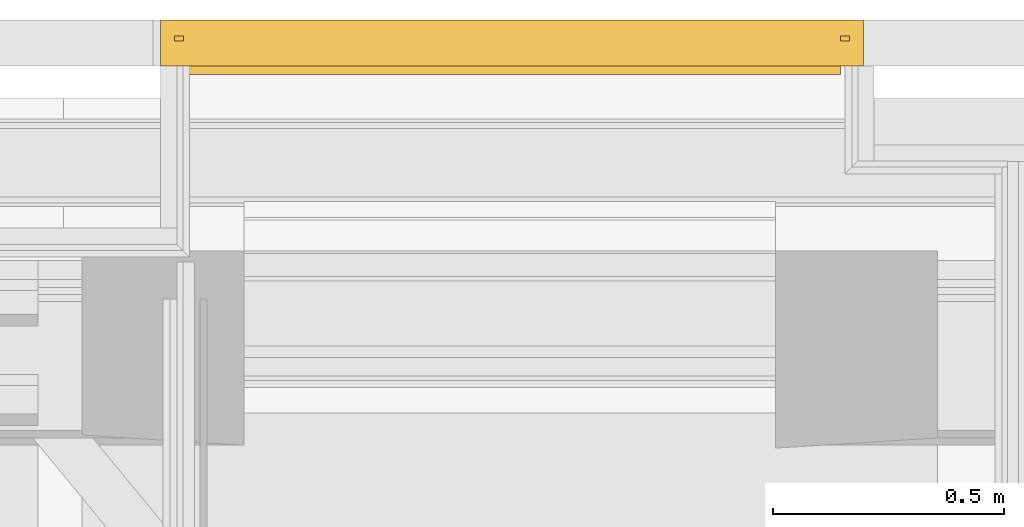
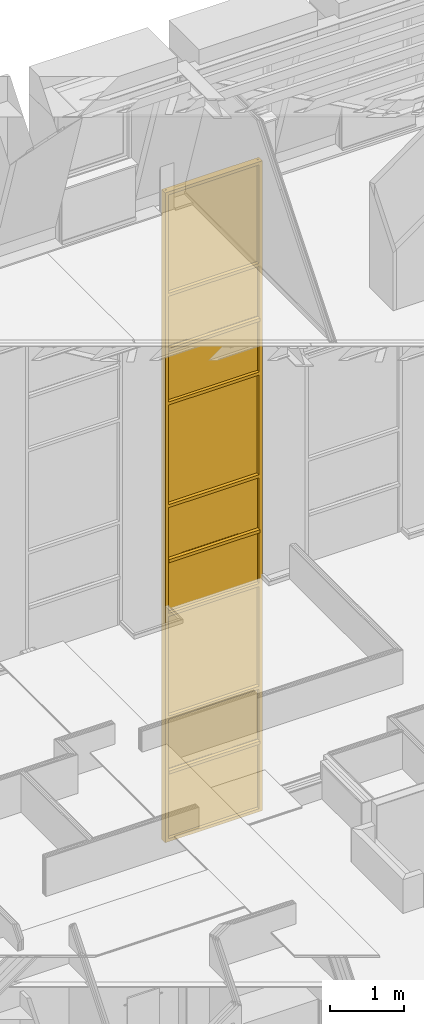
# One storey, part 129 of 183: 1 curtain wall.
"""IFC2X3 building model written with IfcOpenShell, lengths in metres."""

from ifc_helpers import new_model, entity, si_unit, converted_unit, derived_unit, money_unit, direction, frame, origin_with_axes, place, context, subcontext, project, spatial, faceted_brep, material, type_object, element, save


model = new_model("IFC2X3")

# Units and contexts
model_context = context("Model", 3, precision=1e-05, world=origin_with_axes(), true_north=direction((0.0, 1.0)))
body_context = subcontext(model_context, "Body", "Model", "MODEL_VIEW", scale=1.0)
ifc_project = project(units=[si_unit("LENGTHUNIT", "METRE"), si_unit("AREAUNIT", "SQUARE_METRE"), si_unit("VOLUMEUNIT", "CUBIC_METRE"), si_unit("ABSORBEDDOSEUNIT", "GRAY"), si_unit("AMOUNTOFSUBSTANCEUNIT", "MOLE"), si_unit("DOSEEQUIVALENTUNIT", "SIEVERT"), si_unit("ELECTRICCAPACITANCEUNIT", "FARAD"), si_unit("ELECTRICCHARGEUNIT", "COULOMB"), si_unit("ELECTRICCONDUCTANCEUNIT", "SIEMENS"), si_unit("ELECTRICCURRENTUNIT", "AMPERE"), si_unit("ELECTRICRESISTANCEUNIT", "OHM"), si_unit("ELECTRICVOLTAGEUNIT", "VOLT"), si_unit("ENERGYUNIT", "JOULE"), si_unit("FORCEUNIT", "NEWTON"), si_unit("FREQUENCYUNIT", "HERTZ"), si_unit("ILLUMINANCEUNIT", "LUX"), si_unit("INDUCTANCEUNIT", "HENRY"), si_unit("LUMINOUSFLUXUNIT", "LUMEN"), si_unit("LUMINOUSINTENSITYUNIT", "CANDELA"), si_unit("MAGNETICFLUXDENSITYUNIT", "TESLA"), si_unit("MAGNETICFLUXUNIT", "WEBER"), si_unit("MASSUNIT", "GRAM"), converted_unit("PLANEANGLEUNIT", "degree", entity("IfcReal", 0.0174532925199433), si_unit("PLANEANGLEUNIT", "RADIAN"), dimensions=[0, 0, 0, 0, 0, 0, 0]), si_unit("POWERUNIT", "WATT"), si_unit("PRESSUREUNIT", "PASCAL"), si_unit("RADIOACTIVITYUNIT", "BECQUEREL"), si_unit("SOLIDANGLEUNIT", "STERADIAN"), si_unit("THERMODYNAMICTEMPERATUREUNIT", "KELVIN"), si_unit("TIMEUNIT", "SECOND"), derived_unit("ACCELERATIONUNIT", [(si_unit("LENGTHUNIT", "METRE"), 1), (si_unit("TIMEUNIT", "SECOND"), -2)]), derived_unit("ANGULARVELOCITYUNIT", [(converted_unit("PLANEANGLEUNIT", "degree", entity("IfcReal", 0.0174532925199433), si_unit("PLANEANGLEUNIT", "RADIAN"), dimensions=[0, 0, 0, 0, 0, 0, 0]), 1), (si_unit("TIMEUNIT", "SECOND"), -1)]), derived_unit("CURVATUREUNIT", [(converted_unit("PLANEANGLEUNIT", "degree", entity("IfcReal", 0.0174532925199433), si_unit("PLANEANGLEUNIT", "RADIAN"), dimensions=[0, 0, 0, 0, 0, 0, 0]), 1), (si_unit("LENGTHUNIT", "METRE"), -1)]), derived_unit("DYNAMICVISCOSITYUNIT", [(si_unit("PRESSUREUNIT", "PASCAL"), 1), (si_unit("TIMEUNIT", "SECOND"), 1)]), derived_unit("HEATFLUXDENSITYUNIT", [(si_unit("POWERUNIT", "WATT"), 1), (si_unit("LENGTHUNIT", "METRE"), -2)]), derived_unit("HEATINGVALUEUNIT", [(si_unit("ENERGYUNIT", "JOULE"), 1), (si_unit("MASSUNIT", "GRAM"), -1)]), derived_unit("INTEGERCOUNTRATEUNIT", [(si_unit("TIMEUNIT", "SECOND"), -1)]), derived_unit("IONCONCENTRATIONUNIT", [(si_unit("MASSUNIT", "GRAM"), 1), (si_unit("VOLUMEUNIT", "CUBIC_METRE"), -1)]), derived_unit("ISOTHERMALMOISTURECAPACITYUNIT", [(si_unit("VOLUMEUNIT", "CUBIC_METRE"), 1), (si_unit("MASSUNIT", "GRAM"), -1)]), derived_unit("KINEMATICVISCOSITYUNIT", [(si_unit("AREAUNIT", "SQUARE_METRE"), 1), (si_unit("TIMEUNIT", "SECOND"), -1)]), derived_unit("LINEARFORCEUNIT", [(si_unit("FORCEUNIT", "NEWTON"), 1), (si_unit("LENGTHUNIT", "METRE"), -1)]), derived_unit("LINEARMOMENTUNIT", [(si_unit("FORCEUNIT", "NEWTON"), 1), (si_unit("LENGTHUNIT", "METRE"), -1)]), derived_unit("LINEARSTIFFNESSUNIT", [(si_unit("FORCEUNIT", "NEWTON"), 1), (si_unit("LENGTHUNIT", "METRE"), -1)]), derived_unit("LINEARVELOCITYUNIT", [(si_unit("LENGTHUNIT", "METRE"), 1), (si_unit("TIMEUNIT", "SECOND"), -1)]), derived_unit("LUMINOUSINTENSITYDISTRIBUTIONUNIT", [(si_unit("LUMINOUSINTENSITYUNIT", "CANDELA"), 1), (si_unit("LUMINOUSFLUXUNIT", "LUMEN"), -1)]), derived_unit("MASSDENSITYUNIT", [(si_unit("MASSUNIT", "GRAM"), 1), (si_unit("VOLUMEUNIT", "CUBIC_METRE"), -1)]), derived_unit("MASSFLOWRATEUNIT", [(si_unit("MASSUNIT", "GRAM"), 1), (si_unit("TIMEUNIT", "SECOND"), -1)]), derived_unit("MASSPERLENGTHUNIT", [(si_unit("MASSUNIT", "GRAM"), 1), (si_unit("LENGTHUNIT", "METRE"), -1)]), derived_unit("MODULUSOFELASTICITYUNIT", [(si_unit("FORCEUNIT", "NEWTON"), 1), (si_unit("AREAUNIT", "SQUARE_METRE"), -1)]), derived_unit("MODULUSOFLINEARSUBGRADEREACTIONUNIT", [(si_unit("FORCEUNIT", "NEWTON"), 1), (si_unit("LENGTHUNIT", "METRE"), -2)]), derived_unit("MODULUSOFROTATIONALSUBGRADEREACTIONUNIT", [(si_unit("FORCEUNIT", "NEWTON"), 1), (si_unit("LENGTHUNIT", "METRE"), 1)]), derived_unit("MODULUSOFSUBGRADEREACTIONUNIT", [(si_unit("FORCEUNIT", "NEWTON"), 1), (si_unit("VOLUMEUNIT", "CUBIC_METRE"), -1)]), derived_unit("MOISTUREDIFFUSIVITYUNIT", [(si_unit("VOLUMEUNIT", "CUBIC_METRE"), 1), (si_unit("TIMEUNIT", "SECOND"), -1)]), derived_unit("MOLECULARWEIGHTUNIT", [(si_unit("MASSUNIT", "GRAM"), 1), (si_unit("AMOUNTOFSUBSTANCEUNIT", "MOLE"), -1)]), derived_unit("PLANARFORCEUNIT", [(si_unit("FORCEUNIT", "NEWTON"), 1), (si_unit("LENGTHUNIT", "METRE"), -2)]), derived_unit("ROTATIONALFREQUENCYUNIT", [(si_unit("TIMEUNIT", "SECOND"), -1)]), derived_unit("ROTATIONALMASSUNIT", [(si_unit("MASSUNIT", "GRAM"), 1), (si_unit("LENGTHUNIT", "METRE"), 2)]), derived_unit("ROTATIONALSTIFFNESSUNIT", [(si_unit("FORCEUNIT", "NEWTON"), 1), (si_unit("LENGTHUNIT", "METRE"), 1), (converted_unit("PLANEANGLEUNIT", "degree", entity("IfcReal", 0.0174532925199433), si_unit("PLANEANGLEUNIT", "RADIAN"), dimensions=[0, 0, 0, 0, 0, 0, 0]), -1)]), derived_unit("SECTIONAREAINTEGRALUNIT", [(si_unit("LENGTHUNIT", "METRE"), 5)]), derived_unit("SECTIONMODULUSUNIT", [(si_unit("LENGTHUNIT", "METRE"), 3)]), derived_unit("SHEARMODULUSUNIT", [(si_unit("FORCEUNIT", "NEWTON"), 1), (si_unit("AREAUNIT", "SQUARE_METRE"), -1)]), derived_unit("SOUNDPOWERUNIT", [(si_unit("ENERGYUNIT", "JOULE"), 1), (si_unit("TIMEUNIT", "SECOND"), -1)]), derived_unit("SPECIFICHEATCAPACITYUNIT", [(si_unit("FORCEUNIT", "NEWTON"), 1), (si_unit("MASSUNIT", "GRAM"), -1), (si_unit("THERMODYNAMICTEMPERATUREUNIT", "KELVIN"), -1)]), derived_unit("TEMPERATUREGRADIENTUNIT", [(si_unit("THERMODYNAMICTEMPERATUREUNIT", "KELVIN"), 1), (si_unit("LENGTHUNIT", "METRE"), -1)]), derived_unit("THERMALADMITTANCEUNIT", [(si_unit("POWERUNIT", "WATT"), 1), (si_unit("AREAUNIT", "SQUARE_METRE"), -1), (si_unit("THERMODYNAMICTEMPERATUREUNIT", "KELVIN"), -1)]), derived_unit("THERMALCONDUCTANCEUNIT", [(si_unit("POWERUNIT", "WATT"), 1), (si_unit("LENGTHUNIT", "METRE"), -1), (si_unit("THERMODYNAMICTEMPERATUREUNIT", "KELVIN"), -1)]), derived_unit("THERMALEXPANSIONCOEFFICIENTUNIT", [(si_unit("THERMODYNAMICTEMPERATUREUNIT", "KELVIN"), -1)]), derived_unit("THERMALRESISTANCEUNIT", [(si_unit("AREAUNIT", "SQUARE_METRE"), 1), (si_unit("POWERUNIT", "WATT"), -1)]), derived_unit("THERMALTRANSMITTANCEUNIT", [(si_unit("POWERUNIT", "WATT"), 1), (si_unit("AREAUNIT", "SQUARE_METRE"), -1), (si_unit("THERMODYNAMICTEMPERATUREUNIT", "KELVIN"), -1)]), derived_unit("TORQUEUNIT", [(si_unit("FORCEUNIT", "NEWTON"), 1), (si_unit("LENGTHUNIT", "METRE"), 1)]), derived_unit("VAPORPERMEABILITYUNIT", [(si_unit("MASSUNIT", "GRAM"), 1), (si_unit("TIMEUNIT", "SECOND"), -1)]), derived_unit("VOLUMETRICFLOWRATEUNIT", [(si_unit("VOLUMEUNIT", "CUBIC_METRE"), 1), (si_unit("TIMEUNIT", "SECOND"), -1)]), derived_unit("WARPINGCONSTANTUNIT", [(si_unit("LENGTHUNIT", "METRE"), 6)]), derived_unit("WARPINGMOMENTUNIT", [(si_unit("FORCEUNIT", "NEWTON"), 1), (si_unit("LENGTHUNIT", "METRE"), 2)]), money_unit("GBP")], contexts=[model_context])

# Site, building, storey
site_placement = place(None, origin_with_axes())
site = spatial("IfcSite", under=ifc_project, at=site_placement, Name="Site", CompositionType="ELEMENT")
building_placement = place(site_placement, origin_with_axes())
building = spatial("IfcBuilding", under=site, at=building_placement, Name="Building01", CompositionType="ELEMENT")
storey_placement = place(building_placement, frame((0.0, 0.0, 5.15), z_axis=(0.0, 0.0, 1.0), x_axis=(1.0, 0.0, 0.0)))
storey = spatial("IfcBuildingStorey", under=building, at=storey_placement, Name="1F", CompositionType="ELEMENT", Elevation=5.15)

# Curtain wall
ifc_material = material(Name="A-CurtainWall_Frame")
curtain_wall_type = type_object("IfcCurtainWallType", Name="Pattern - Maximum Spacing", PredefinedType="NOTDEFINED")
curtain_wall_placement = place(storey_placement, frame((0.0, 0.0, -5.15), z_axis=(0.0, 0.0, 1.0), x_axis=(1.0, 0.0, 0.0)))
element("IfcCurtainWall", 1, at=curtain_wall_placement, inside=storey, type_object=curtain_wall_type, material=ifc_material, Name="08", ObjectType="Pattern - Maximum Spacing", context=body_context, shape_type="Brep", body=[
    faceted_brep([(10.95, 14.85, 5.118945), (10.95, 14.87, 5.118945), (9.49, 14.87, 5.118945), (9.49, 14.85, 5.118945), (10.95, 14.85, 4.0), (10.95, 14.87, 4.0), (9.49, 14.85, 4.0), (9.49, 14.87, 4.0)], [[[0, 1, 2, 3]], [[4, 5, 1, 0]], [[6, 7, 5, 4]], [[3, 2, 7, 6]], [[1, 5, 7, 2]], [[3, 6, 4, 0]]]),
    faceted_brep([(9.46, 14.9, 3.97), (9.51, 14.9, 3.97), (9.51, 14.865, 3.97), (9.49, 14.865, 3.97), (9.49, 14.855, 3.97), (9.51, 14.855, 3.97), (9.51, 14.8, 3.97), (9.46, 14.8, 3.97), (9.46, 14.8, 5.123945), (9.46, 14.9, 5.123945), (9.51, 14.9, 5.123945), (9.51, 14.865, 5.123945), (9.49, 14.865, 5.123945), (9.49, 14.855, 5.123945), (9.51, 14.855, 5.123945), (9.51, 14.8, 5.123945)], [[[0, 1, 2, 3, 4, 5, 6, 7]], [[7, 8, 9, 0]], [[0, 9, 10, 1]], [[1, 10, 11, 2]], [[2, 11, 12, 3]], [[3, 12, 13, 4]], [[4, 13, 14, 5]], [[5, 14, 15, 6]], [[6, 15, 8, 7]]]),
    faceted_brep([(10.93, 14.9, 4.02), (10.93, 14.865, 4.02), (10.93, 14.865, 4.0), (10.93, 14.855, 4.0), (10.93, 14.855, 4.02), (10.93, 14.8, 4.02), (10.93, 14.8, 3.97), (10.93, 14.9, 3.97), (9.51, 14.9, 3.97), (9.51, 14.9, 4.02), (9.51, 14.865, 4.02), (9.51, 14.865, 4.0), (9.51, 14.855, 4.0), (9.51, 14.855, 4.02), (9.51, 14.8, 4.02), (9.51, 14.8, 3.97)], [[[0, 1, 2, 3, 4, 5, 6, 7]], [[7, 8, 9, 0]], [[0, 9, 10, 1]], [[1, 10, 11, 2]], [[2, 11, 12, 3]], [[3, 12, 13, 4]], [[4, 13, 14, 5]], [[5, 14, 15, 6]], [[6, 15, 8, 7]], [[8, 15, 14, 13, 12, 11, 10, 9]]]),
    faceted_brep([(10.98, 14.9, 3.97), (10.98, 14.9, 5.123945), (10.98, 14.8, 5.123945), (10.98, 14.8, 3.97), (10.93, 14.9, 3.97), (10.93, 14.9, 5.123945), (10.93, 14.865, 3.97), (10.93, 14.865, 5.123945), (10.95, 14.865, 3.97), (10.95, 14.865, 5.123945), (10.95, 14.855, 3.97), (10.95, 14.855, 5.123945), (10.93, 14.855, 3.97), (10.93, 14.855, 5.123945), (10.93, 14.8, 3.97), (10.93, 14.8, 5.123945)], [[[0, 1, 2, 3]], [[4, 5, 1, 0]], [[6, 7, 5, 4]], [[8, 9, 7, 6]], [[10, 11, 9, 8]], [[12, 13, 11, 10]], [[14, 15, 13, 12]], [[3, 2, 15, 14]], [[14, 12, 10, 8, 6, 4, 0, 3]]]),
    faceted_brep([(9.51, 14.8375, 5.128945), (9.51, 14.8475, 5.128945), (9.51, 14.8475, 5.148945), (9.51, 14.8825, 5.148945), (9.51, 14.8825, 5.098945), (9.51, 14.8475, 5.098945), (9.51, 14.8475, 5.118945), (9.51, 14.8375, 5.118945), (9.51, 14.8375, 5.098945), (9.51, 14.7825, 5.098945), (9.51, 14.7825, 5.148945), (9.51, 14.8375, 5.148945), (10.93, 14.8375, 5.148945), (10.93, 14.8375, 5.128945), (10.93, 14.8475, 5.128945), (10.93, 14.8475, 5.148945), (10.93, 14.8825, 5.148945), (10.93, 14.8825, 5.098945), (10.93, 14.8475, 5.098945), (10.93, 14.8375, 5.118945), (10.93, 14.8375, 5.098945), (10.93, 14.8475, 5.118945), (10.93, 14.7825, 5.148945), (10.93, 14.7825, 5.098945)], [[[0, 1, 2, 3, 4, 5, 6, 7, 8, 9, 10, 11]], [[11, 12, 13, 0]], [[0, 13, 14, 1]], [[1, 14, 15, 2]], [[2, 15, 16, 3]], [[3, 16, 17, 4]], [[4, 17, 18, 5]], [[7, 19, 20, 8]], [[6, 21, 19, 7]], [[5, 18, 21, 6]], [[10, 22, 12, 11]], [[9, 23, 22, 10]], [[8, 20, 23, 9]], [[20, 19, 21, 18, 17, 16, 15, 14, 13, 12, 22, 23]]]),
    faceted_brep([(10.95, 14.85, 6.018105), (10.95, 14.87, 6.018105), (9.49, 14.87, 6.018105), (9.49, 14.85, 6.018105), (10.95, 14.85, 5.128945), (10.95, 14.87, 5.128945), (9.49, 14.85, 5.128945), (9.49, 14.87, 5.128945)], [[[0, 1, 2, 3]], [[4, 5, 1, 0]], [[6, 7, 5, 4]], [[3, 2, 7, 6]], [[1, 5, 7, 2]], [[3, 6, 4, 0]]]),
    faceted_brep([(9.51, 14.8, 6.023105), (9.51, 14.8, 5.123945), (9.51, 14.855, 5.123945), (9.51, 14.855, 6.023105), (9.46, 14.8, 6.023105), (9.46, 14.8, 5.123945), (9.46, 14.9, 6.023105), (9.46, 14.9, 5.123945), (9.51, 14.9, 6.023105), (9.51, 14.9, 5.123945), (9.51, 14.865, 6.023105), (9.51, 14.865, 5.123945), (9.49, 14.865, 6.023105), (9.49, 14.865, 5.123945), (9.49, 14.855, 6.023105), (9.49, 14.855, 5.123945)], [[[0, 1, 2, 3]], [[4, 5, 1, 0]], [[6, 7, 5, 4]], [[8, 9, 7, 6]], [[10, 11, 9, 8]], [[12, 13, 11, 10]], [[14, 15, 13, 12]], [[3, 2, 15, 14]]]),
    faceted_brep([(10.98, 14.9, 5.123945), (10.98, 14.9, 6.023105), (10.98, 14.8, 6.023105), (10.98, 14.8, 5.123945), (10.93, 14.9, 5.123945), (10.93, 14.9, 6.023105), (10.93, 14.865, 5.123945), (10.93, 14.865, 6.023105), (10.95, 14.865, 5.123945), (10.95, 14.865, 6.023105), (10.95, 14.855, 5.123945), (10.95, 14.855, 6.023105), (10.93, 14.855, 5.123945), (10.93, 14.855, 6.023105), (10.93, 14.8, 5.123945), (10.93, 14.8, 6.023105)], [[[0, 1, 2, 3]], [[4, 5, 1, 0]], [[6, 7, 5, 4]], [[8, 9, 7, 6]], [[10, 11, 9, 8]], [[12, 13, 11, 10]], [[14, 15, 13, 12]], [[3, 2, 15, 14]]]),
    faceted_brep([(9.51, 14.855, 6.028105), (9.51, 14.865, 6.028105), (9.51, 14.865, 6.048105), (9.51, 14.9, 6.048105), (9.51, 14.9, 5.998105), (9.51, 14.865, 5.998105), (9.51, 14.865, 6.018105), (9.51, 14.855, 6.018105), (9.51, 14.855, 5.998105), (9.51, 14.8, 5.998105), (9.51, 14.8, 6.048105), (9.51, 14.855, 6.048105), (10.93, 14.855, 6.048105), (10.93, 14.855, 6.028105), (10.93, 14.865, 6.028105), (10.93, 14.865, 6.048105), (10.93, 14.9, 6.048105), (10.93, 14.9, 5.998105), (10.93, 14.865, 5.998105), (10.93, 14.855, 6.018105), (10.93, 14.855, 5.998105), (10.93, 14.865, 6.018105), (10.93, 14.8, 6.048105), (10.93, 14.8, 5.998105)], [[[0, 1, 2, 3, 4, 5, 6, 7, 8, 9, 10, 11]], [[11, 12, 13, 0]], [[0, 13, 14, 1]], [[1, 14, 15, 2]], [[2, 15, 16, 3]], [[3, 16, 17, 4]], [[4, 17, 18, 5]], [[7, 19, 20, 8]], [[6, 21, 19, 7]], [[5, 18, 21, 6]], [[10, 22, 12, 11]], [[9, 23, 22, 10]], [[8, 20, 23, 9]], [[20, 19, 21, 18, 17, 16, 15, 14, 13, 12, 22, 23]]]),
    faceted_brep([(10.95, 14.855, 7.716517), (10.95, 14.865, 7.716517), (9.49, 14.865, 7.716517), (9.49, 14.855, 7.716517), (10.95, 14.855, 6.028105), (10.95, 14.865, 6.028105), (9.49, 14.855, 6.028105), (9.49, 14.865, 6.028105)], [[[0, 1, 2, 3]], [[4, 5, 1, 0]], [[6, 7, 5, 4]], [[3, 2, 7, 6]], [[1, 5, 7, 2]], [[3, 6, 4, 0]]]),
    faceted_brep([(9.51, 14.8, 7.721517), (9.51, 14.8, 6.023105), (9.51, 14.855, 6.023105), (9.51, 14.855, 7.721517), (9.46, 14.8, 7.721517), (9.46, 14.8, 6.023105), (9.46, 14.9, 7.721517), (9.46, 14.9, 6.023105), (9.51, 14.9, 7.721517), (9.51, 14.9, 6.023105), (9.51, 14.865, 7.721517), (9.51, 14.865, 6.023105), (9.49, 14.865, 7.721517), (9.49, 14.865, 6.023105), (9.49, 14.855, 7.721517), (9.49, 14.855, 6.023105)], [[[0, 1, 2, 3]], [[4, 5, 1, 0]], [[6, 7, 5, 4]], [[8, 9, 7, 6]], [[10, 11, 9, 8]], [[12, 13, 11, 10]], [[14, 15, 13, 12]], [[3, 2, 15, 14]]]),
    faceted_brep([(10.98, 14.9, 6.023105), (10.98, 14.9, 7.721517), (10.98, 14.8, 7.721517), (10.98, 14.8, 6.023105), (10.93, 14.9, 6.023105), (10.93, 14.9, 7.721517), (10.93, 14.865, 6.023105), (10.93, 14.865, 7.721517), (10.95, 14.865, 6.023105), (10.95, 14.865, 7.721517), (10.95, 14.855, 6.023105), (10.95, 14.855, 7.721517), (10.93, 14.855, 6.023105), (10.93, 14.855, 7.721517), (10.93, 14.8, 6.023105), (10.93, 14.8, 7.721517)], [[[0, 1, 2, 3]], [[4, 5, 1, 0]], [[6, 7, 5, 4]], [[8, 9, 7, 6]], [[10, 11, 9, 8]], [[12, 13, 11, 10]], [[14, 15, 13, 12]], [[3, 2, 15, 14]]]),
    faceted_brep([(9.51, 14.855, 7.726517), (9.51, 14.865, 7.726517), (9.51, 14.865, 7.746517), (9.51, 14.9, 7.746517), (9.51, 14.9, 7.696517), (9.51, 14.865, 7.696517), (9.51, 14.865, 7.716517), (9.51, 14.855, 7.716517), (9.51, 14.855, 7.696517), (9.51, 14.8, 7.696517), (9.51, 14.8, 7.746517), (9.51, 14.855, 7.746517), (10.93, 14.855, 7.746517), (10.93, 14.855, 7.726517), (10.93, 14.865, 7.726517), (10.93, 14.865, 7.746517), (10.93, 14.9, 7.746517), (10.93, 14.9, 7.696517), (10.93, 14.865, 7.696517), (10.93, 14.855, 7.716517), (10.93, 14.855, 7.696517), (10.93, 14.865, 7.716517), (10.93, 14.8, 7.746517), (10.93, 14.8, 7.696517)], [[[0, 1, 2, 3, 4, 5, 6, 7, 8, 9, 10, 11]], [[11, 12, 13, 0]], [[0, 13, 14, 1]], [[1, 14, 15, 2]], [[2, 15, 16, 3]], [[3, 16, 17, 4]], [[4, 17, 18, 5]], [[7, 19, 20, 8]], [[6, 21, 19, 7]], [[5, 18, 21, 6]], [[10, 22, 12, 11]], [[9, 23, 22, 10]], [[8, 20, 23, 9]], [[20, 19, 21, 18, 17, 16, 15, 14, 13, 12, 22, 23]]]),
    faceted_brep([(10.95, 14.85, 8.615677), (10.95, 14.87, 8.615677), (9.49, 14.87, 8.615677), (9.49, 14.85, 8.615677), (10.95, 14.85, 7.726517), (10.95, 14.87, 7.726517), (9.49, 14.85, 7.726517), (9.49, 14.87, 7.726517)], [[[0, 1, 2, 3]], [[4, 5, 1, 0]], [[6, 7, 5, 4]], [[3, 2, 7, 6]], [[1, 5, 7, 2]], [[3, 6, 4, 0]]]),
    faceted_brep([(9.51, 14.8, 8.620677), (9.51, 14.8, 7.721517), (9.51, 14.855, 7.721517), (9.51, 14.855, 8.620677), (9.46, 14.8, 8.620677), (9.46, 14.8, 7.721517), (9.46, 14.9, 8.620677), (9.46, 14.9, 7.721517), (9.51, 14.9, 8.620677), (9.51, 14.9, 7.721517), (9.51, 14.865, 8.620677), (9.51, 14.865, 7.721517), (9.49, 14.865, 8.620677), (9.49, 14.865, 7.721517), (9.49, 14.855, 8.620677), (9.49, 14.855, 7.721517)], [[[0, 1, 2, 3]], [[4, 5, 1, 0]], [[6, 7, 5, 4]], [[8, 9, 7, 6]], [[10, 11, 9, 8]], [[12, 13, 11, 10]], [[14, 15, 13, 12]], [[3, 2, 15, 14]]]),
    faceted_brep([(10.98, 14.9, 7.721517), (10.98, 14.9, 8.620677), (10.98, 14.8, 8.620677), (10.98, 14.8, 7.721517), (10.93, 14.9, 7.721517), (10.93, 14.9, 8.620677), (10.93, 14.865, 7.721517), (10.93, 14.865, 8.620677), (10.95, 14.865, 7.721517), (10.95, 14.865, 8.620677), (10.95, 14.855, 7.721517), (10.95, 14.855, 8.620677), (10.93, 14.855, 7.721517), (10.93, 14.855, 8.620677), (10.93, 14.8, 7.721517), (10.93, 14.8, 8.620677)], [[[0, 1, 2, 3]], [[4, 5, 1, 0]], [[6, 7, 5, 4]], [[8, 9, 7, 6]], [[10, 11, 9, 8]], [[12, 13, 11, 10]], [[14, 15, 13, 12]], [[3, 2, 15, 14]]]),
    faceted_brep([(9.51, 14.8375, 8.625677), (9.51, 14.8475, 8.625677), (9.51, 14.8475, 8.645677), (9.51, 14.8825, 8.645677), (9.51, 14.8825, 8.595677), (9.51, 14.8475, 8.595677), (9.51, 14.8475, 8.615677), (9.51, 14.8375, 8.615677), (9.51, 14.8375, 8.595677), (9.51, 14.7825, 8.595677), (9.51, 14.7825, 8.645677), (9.51, 14.8375, 8.645677), (10.93, 14.8375, 8.645677), (10.93, 14.8375, 8.625677), (10.93, 14.8475, 8.625677), (10.93, 14.8475, 8.645677), (10.93, 14.8825, 8.645677), (10.93, 14.8825, 8.595677), (10.93, 14.8475, 8.595677), (10.93, 14.8375, 8.615677), (10.93, 14.8375, 8.595677), (10.93, 14.8475, 8.615677), (10.93, 14.7825, 8.645677), (10.93, 14.7825, 8.595677)], [[[0, 1, 2, 3, 4, 5, 6, 7, 8, 9, 10, 11]], [[11, 12, 13, 0]], [[0, 13, 14, 1]], [[1, 14, 15, 2]], [[2, 15, 16, 3]], [[3, 16, 17, 4]], [[4, 17, 18, 5]], [[7, 19, 20, 8]], [[6, 21, 19, 7]], [[5, 18, 21, 6]], [[10, 22, 12, 11]], [[9, 23, 22, 10]], [[8, 20, 23, 9]], [[20, 19, 21, 18, 17, 16, 15, 14, 13, 12, 22, 23]]]),
    faceted_brep([(10.95, 14.85, 9.514837), (10.95, 14.87, 9.514837), (9.49, 14.87, 9.514837), (9.49, 14.85, 9.514837), (10.95, 14.85, 8.625677), (10.95, 14.87, 8.625677), (9.49, 14.85, 8.625677), (9.49, 14.87, 8.625677)], [[[0, 1, 2, 3]], [[4, 5, 1, 0]], [[6, 7, 5, 4]], [[3, 2, 7, 6]], [[1, 5, 7, 2]], [[3, 6, 4, 0]]]),
    faceted_brep([(9.51, 14.8, 9.519837), (9.51, 14.8, 8.620677), (9.51, 14.855, 8.620677), (9.51, 14.855, 9.519837), (9.46, 14.8, 9.519837), (9.46, 14.8, 8.620677), (9.46, 14.9, 9.519837), (9.46, 14.9, 8.620677), (9.51, 14.9, 9.519837), (9.51, 14.9, 8.620677), (9.51, 14.865, 9.519837), (9.51, 14.865, 8.620677), (9.49, 14.865, 9.519837), (9.49, 14.865, 8.620677), (9.49, 14.855, 9.519837), (9.49, 14.855, 8.620677)], [[[0, 1, 2, 3]], [[4, 5, 1, 0]], [[6, 7, 5, 4]], [[8, 9, 7, 6]], [[10, 11, 9, 8]], [[12, 13, 11, 10]], [[14, 15, 13, 12]], [[3, 2, 15, 14]]]),
    faceted_brep([(10.98, 14.9, 8.620677), (10.98, 14.9, 9.519837), (10.98, 14.8, 9.519837), (10.98, 14.8, 8.620677), (10.93, 14.9, 8.620677), (10.93, 14.9, 9.519837), (10.93, 14.865, 8.620677), (10.93, 14.865, 9.519837), (10.95, 14.865, 8.620677), (10.95, 14.865, 9.519837), (10.95, 14.855, 8.620677), (10.95, 14.855, 9.519837), (10.93, 14.855, 8.620677), (10.93, 14.855, 9.519837), (10.93, 14.8, 8.620677), (10.93, 14.8, 9.519837)], [[[0, 1, 2, 3]], [[4, 5, 1, 0]], [[6, 7, 5, 4]], [[8, 9, 7, 6]], [[10, 11, 9, 8]], [[12, 13, 11, 10]], [[14, 15, 13, 12]], [[3, 2, 15, 14]]]),
    faceted_brep([(9.51, 14.855, 9.524837), (9.51, 14.865, 9.524837), (9.51, 14.865, 9.544837), (9.51, 14.9, 9.544837), (9.51, 14.9, 9.494837), (9.51, 14.865, 9.494837), (9.51, 14.865, 9.514837), (9.51, 14.855, 9.514837), (9.51, 14.855, 9.494837), (9.51, 14.8, 9.494837), (9.51, 14.8, 9.544837), (9.51, 14.855, 9.544837), (10.93, 14.855, 9.544837), (10.93, 14.855, 9.524837), (10.93, 14.865, 9.524837), (10.93, 14.865, 9.544837), (10.93, 14.9, 9.544837), (10.93, 14.9, 9.494837), (10.93, 14.865, 9.494837), (10.93, 14.855, 9.514837), (10.93, 14.855, 9.494837), (10.93, 14.865, 9.514837), (10.93, 14.8, 9.544837), (10.93, 14.8, 9.494837)], [[[0, 1, 2, 3, 4, 5, 6, 7, 8, 9, 10, 11]], [[11, 12, 13, 0]], [[0, 13, 14, 1]], [[1, 14, 15, 2]], [[2, 15, 16, 3]], [[3, 16, 17, 4]], [[4, 17, 18, 5]], [[7, 19, 20, 8]], [[6, 21, 19, 7]], [[5, 18, 21, 6]], [[10, 22, 12, 11]], [[9, 23, 22, 10]], [[8, 20, 23, 9]], [[20, 19, 21, 18, 17, 16, 15, 14, 13, 12, 22, 23]]]),
    faceted_brep([(10.95, 14.855, 11.213249), (10.95, 14.865, 11.213249), (9.49, 14.865, 11.213249), (9.49, 14.855, 11.213249), (10.95, 14.855, 9.524837), (10.95, 14.865, 9.524837), (9.49, 14.855, 9.524837), (9.49, 14.865, 9.524837)], [[[0, 1, 2, 3]], [[4, 5, 1, 0]], [[6, 7, 5, 4]], [[3, 2, 7, 6]], [[1, 5, 7, 2]], [[3, 6, 4, 0]]]),
    faceted_brep([(9.51, 14.8, 11.218249), (9.51, 14.8, 9.519837), (9.51, 14.855, 9.519837), (9.51, 14.855, 11.218249), (9.46, 14.8, 11.218249), (9.46, 14.8, 9.519837), (9.46, 14.9, 11.218249), (9.46, 14.9, 9.519837), (9.51, 14.9, 11.218249), (9.51, 14.9, 9.519837), (9.51, 14.865, 11.218249), (9.51, 14.865, 9.519837), (9.49, 14.865, 11.218249), (9.49, 14.865, 9.519837), (9.49, 14.855, 11.218249), (9.49, 14.855, 9.519837)], [[[0, 1, 2, 3]], [[4, 5, 1, 0]], [[6, 7, 5, 4]], [[8, 9, 7, 6]], [[10, 11, 9, 8]], [[12, 13, 11, 10]], [[14, 15, 13, 12]], [[3, 2, 15, 14]]]),
    faceted_brep([(10.98, 14.9, 9.519837), (10.98, 14.9, 11.218249), (10.98, 14.8, 11.218249), (10.98, 14.8, 9.519837), (10.93, 14.9, 9.519837), (10.93, 14.9, 11.218249), (10.93, 14.865, 9.519837), (10.93, 14.865, 11.218249), (10.95, 14.865, 9.519837), (10.95, 14.865, 11.218249), (10.95, 14.855, 9.519837), (10.95, 14.855, 11.218249), (10.93, 14.855, 9.519837), (10.93, 14.855, 11.218249), (10.93, 14.8, 9.519837), (10.93, 14.8, 11.218249)], [[[0, 1, 2, 3]], [[4, 5, 1, 0]], [[6, 7, 5, 4]], [[8, 9, 7, 6]], [[10, 11, 9, 8]], [[12, 13, 11, 10]], [[14, 15, 13, 12]], [[3, 2, 15, 14]]]),
    faceted_brep([(9.51, 14.855, 11.223249), (9.51, 14.865, 11.223249), (9.51, 14.865, 11.243249), (9.51, 14.9, 11.243249), (9.51, 14.9, 11.193249), (9.51, 14.865, 11.193249), (9.51, 14.865, 11.213249), (9.51, 14.855, 11.213249), (9.51, 14.855, 11.193249), (9.51, 14.8, 11.193249), (9.51, 14.8, 11.243249), (9.51, 14.855, 11.243249), (10.93, 14.855, 11.243249), (10.93, 14.855, 11.223249), (10.93, 14.865, 11.223249), (10.93, 14.865, 11.243249), (10.93, 14.9, 11.243249), (10.93, 14.9, 11.193249), (10.93, 14.865, 11.193249), (10.93, 14.855, 11.213249), (10.93, 14.855, 11.193249), (10.93, 14.865, 11.213249), (10.93, 14.8, 11.243249), (10.93, 14.8, 11.193249)], [[[0, 1, 2, 3, 4, 5, 6, 7, 8, 9, 10, 11]], [[11, 12, 13, 0]], [[0, 13, 14, 1]], [[1, 14, 15, 2]], [[2, 15, 16, 3]], [[3, 16, 17, 4]], [[4, 17, 18, 5]], [[7, 19, 20, 8]], [[6, 21, 19, 7]], [[5, 18, 21, 6]], [[10, 22, 12, 11]], [[9, 23, 22, 10]], [[8, 20, 23, 9]], [[20, 19, 21, 18, 17, 16, 15, 14, 13, 12, 22, 23]]]),
    faceted_brep([(10.95, 14.85, 12.112409), (10.95, 14.87, 12.112409), (9.49, 14.87, 12.112409), (9.49, 14.85, 12.112409), (10.95, 14.85, 11.223249), (10.95, 14.87, 11.223249), (9.49, 14.85, 11.223249), (9.49, 14.87, 11.223249)], [[[0, 1, 2, 3]], [[4, 5, 1, 0]], [[6, 7, 5, 4]], [[3, 2, 7, 6]], [[1, 5, 7, 2]], [[3, 6, 4, 0]]]),
    faceted_brep([(9.51, 14.8, 12.117409), (9.51, 14.8, 11.218249), (9.51, 14.855, 11.218249), (9.51, 14.855, 12.117409), (9.46, 14.8, 12.117409), (9.46, 14.8, 11.218249), (9.46, 14.9, 12.117409), (9.46, 14.9, 11.218249), (9.51, 14.9, 12.117409), (9.51, 14.9, 11.218249), (9.51, 14.865, 12.117409), (9.51, 14.865, 11.218249), (9.49, 14.865, 12.117409), (9.49, 14.865, 11.218249), (9.49, 14.855, 12.117409), (9.49, 14.855, 11.218249)], [[[0, 1, 2, 3]], [[4, 5, 1, 0]], [[6, 7, 5, 4]], [[8, 9, 7, 6]], [[10, 11, 9, 8]], [[12, 13, 11, 10]], [[14, 15, 13, 12]], [[3, 2, 15, 14]]]),
    faceted_brep([(10.98, 14.9, 11.218249), (10.98, 14.9, 12.117409), (10.98, 14.8, 12.117409), (10.98, 14.8, 11.218249), (10.93, 14.9, 11.218249), (10.93, 14.9, 12.117409), (10.93, 14.865, 11.218249), (10.93, 14.865, 12.117409), (10.95, 14.865, 11.218249), (10.95, 14.865, 12.117409), (10.95, 14.855, 11.218249), (10.95, 14.855, 12.117409), (10.93, 14.855, 11.218249), (10.93, 14.855, 12.117409), (10.93, 14.8, 11.218249), (10.93, 14.8, 12.117409)], [[[0, 1, 2, 3]], [[4, 5, 1, 0]], [[6, 7, 5, 4]], [[8, 9, 7, 6]], [[10, 11, 9, 8]], [[12, 13, 11, 10]], [[14, 15, 13, 12]], [[3, 2, 15, 14]]]),
    faceted_brep([(9.51, 14.8375, 12.122409), (9.51, 14.8475, 12.122409), (9.51, 14.8475, 12.142409), (9.51, 14.8825, 12.142409), (9.51, 14.8825, 12.092409), (9.51, 14.8475, 12.092409), (9.51, 14.8475, 12.112409), (9.51, 14.8375, 12.112409), (9.51, 14.8375, 12.092409), (9.51, 14.7825, 12.092409), (9.51, 14.7825, 12.142409), (9.51, 14.8375, 12.142409), (10.93, 14.8375, 12.142409), (10.93, 14.8375, 12.122409), (10.93, 14.8475, 12.122409), (10.93, 14.8475, 12.142409), (10.93, 14.8825, 12.142409), (10.93, 14.8825, 12.092409), (10.93, 14.8475, 12.092409), (10.93, 14.8375, 12.112409), (10.93, 14.8375, 12.092409), (10.93, 14.8475, 12.112409), (10.93, 14.7825, 12.142409), (10.93, 14.7825, 12.092409)], [[[0, 1, 2, 3, 4, 5, 6, 7, 8, 9, 10, 11]], [[11, 12, 13, 0]], [[0, 13, 14, 1]], [[1, 14, 15, 2]], [[2, 15, 16, 3]], [[3, 16, 17, 4]], [[4, 17, 18, 5]], [[7, 19, 20, 8]], [[6, 21, 19, 7]], [[5, 18, 21, 6]], [[10, 22, 12, 11]], [[9, 23, 22, 10]], [[8, 20, 23, 9]], [[20, 19, 21, 18, 17, 16, 15, 14, 13, 12, 22, 23]]]),
    faceted_brep([(9.49, 14.855, 13.021569), (9.49, 14.865, 13.021569), (10.95, 14.865, 13.021569), (10.95, 14.855, 13.021569), (9.49, 14.855, 14.69), (9.49, 14.865, 14.69), (10.95, 14.855, 14.69), (10.95, 14.865, 14.69)], [[[0, 1, 2, 3]], [[4, 5, 1, 0]], [[6, 7, 5, 4]], [[3, 2, 7, 6]], [[1, 5, 7, 2]], [[3, 6, 4, 0]]]),
    faceted_brep([(10.98, 14.9, 14.72), (10.93, 14.9, 14.72), (10.93, 14.865, 14.72), (10.95, 14.865, 14.72), (10.95, 14.855, 14.72), (10.93, 14.855, 14.72), (10.93, 14.8, 14.72), (10.98, 14.8, 14.72), (10.98, 14.8, 13.016569), (10.98, 14.9, 13.016569), (10.93, 14.9, 13.016569), (10.93, 14.865, 13.016569), (10.95, 14.865, 13.016569), (10.95, 14.855, 13.016569), (10.93, 14.855, 13.016569), (10.93, 14.8, 13.016569)], [[[0, 1, 2, 3, 4, 5, 6, 7]], [[7, 8, 9, 0]], [[0, 9, 10, 1]], [[1, 10, 11, 2]], [[2, 11, 12, 3]], [[3, 12, 13, 4]], [[4, 13, 14, 5]], [[5, 14, 15, 6]], [[6, 15, 8, 7]]]),
    faceted_brep([(9.51, 14.865, 14.69), (9.51, 14.855, 14.69), (9.51, 14.855, 14.67), (9.51, 14.8, 14.67), (9.51, 14.8, 14.72), (9.51, 14.9, 14.72), (9.51, 14.9, 14.67), (9.51, 14.865, 14.67), (10.93, 14.865, 14.67), (10.93, 14.865, 14.69), (10.93, 14.855, 14.69), (10.93, 14.855, 14.67), (10.93, 14.8, 14.67), (10.93, 14.8, 14.72), (10.93, 14.9, 14.72), (10.93, 14.9, 14.67)], [[[0, 1, 2, 3, 4, 5, 6, 7]], [[7, 8, 9, 0]], [[0, 9, 10, 1]], [[1, 10, 11, 2]], [[2, 11, 12, 3]], [[3, 12, 13, 4]], [[4, 13, 14, 5]], [[5, 14, 15, 6]], [[6, 15, 8, 7]], [[8, 15, 14, 13, 12, 11, 10, 9]]]),
    faceted_brep([(9.46, 14.9, 14.72), (9.46, 14.9, 13.016569), (9.46, 14.8, 13.016569), (9.46, 14.8, 14.72), (9.51, 14.9, 14.72), (9.51, 14.9, 13.016569), (9.51, 14.865, 14.72), (9.51, 14.865, 13.016569), (9.49, 14.865, 14.72), (9.49, 14.865, 13.016569), (9.49, 14.855, 14.72), (9.49, 14.855, 13.016569), (9.51, 14.855, 14.72), (9.51, 14.855, 13.016569), (9.51, 14.8, 14.72), (9.51, 14.8, 13.016569)], [[[0, 1, 2, 3]], [[4, 5, 1, 0]], [[6, 7, 5, 4]], [[8, 9, 7, 6]], [[10, 11, 9, 8]], [[12, 13, 11, 10]], [[14, 15, 13, 12]], [[3, 2, 15, 14]], [[14, 12, 10, 8, 6, 4, 0, 3]]]),
    faceted_brep([(10.93, 14.865, 13.021569), (10.93, 14.855, 13.021569), (10.93, 14.855, 13.041569), (10.93, 14.8, 13.041569), (10.93, 14.8, 12.991569), (10.93, 14.855, 12.991569), (10.93, 14.855, 13.011569), (10.93, 14.865, 13.011569), (10.93, 14.865, 12.991569), (10.93, 14.9, 12.991569), (10.93, 14.9, 13.041569), (10.93, 14.865, 13.041569), (9.51, 14.865, 13.041569), (9.51, 14.865, 13.021569), (9.51, 14.855, 13.021569), (9.51, 14.855, 13.041569), (9.51, 14.8, 13.041569), (9.51, 14.8, 12.991569), (9.51, 14.855, 12.991569), (9.51, 14.865, 13.011569), (9.51, 14.865, 12.991569), (9.51, 14.855, 13.011569), (9.51, 14.9, 13.041569), (9.51, 14.9, 12.991569)], [[[0, 1, 2, 3, 4, 5, 6, 7, 8, 9, 10, 11]], [[11, 12, 13, 0]], [[0, 13, 14, 1]], [[1, 14, 15, 2]], [[2, 15, 16, 3]], [[3, 16, 17, 4]], [[4, 17, 18, 5]], [[7, 19, 20, 8]], [[6, 21, 19, 7]], [[5, 18, 21, 6]], [[10, 22, 12, 11]], [[9, 23, 22, 10]], [[8, 20, 23, 9]], [[20, 19, 21, 18, 17, 16, 15, 14, 13, 12, 22, 23]]]),
    faceted_brep([(10.95, 14.85, 13.011569), (10.95, 14.87, 13.011569), (9.49, 14.87, 13.011569), (9.49, 14.85, 13.011569), (10.95, 14.85, 12.122409), (10.95, 14.87, 12.122409), (9.49, 14.85, 12.122409), (9.49, 14.87, 12.122409)], [[[0, 1, 2, 3]], [[4, 5, 1, 0]], [[6, 7, 5, 4]], [[3, 2, 7, 6]], [[1, 5, 7, 2]], [[3, 6, 4, 0]]]),
    faceted_brep([(9.51, 14.8, 13.016569), (9.51, 14.8, 12.117409), (9.51, 14.855, 12.117409), (9.51, 14.855, 13.016569), (9.46, 14.8, 13.016569), (9.46, 14.8, 12.117409), (9.46, 14.9, 13.016569), (9.46, 14.9, 12.117409), (9.51, 14.9, 13.016569), (9.51, 14.9, 12.117409), (9.51, 14.865, 13.016569), (9.51, 14.865, 12.117409), (9.49, 14.865, 13.016569), (9.49, 14.865, 12.117409), (9.49, 14.855, 13.016569), (9.49, 14.855, 12.117409)], [[[0, 1, 2, 3]], [[4, 5, 1, 0]], [[6, 7, 5, 4]], [[8, 9, 7, 6]], [[10, 11, 9, 8]], [[12, 13, 11, 10]], [[14, 15, 13, 12]], [[3, 2, 15, 14]]]),
    faceted_brep([(10.98, 14.9, 12.117409), (10.98, 14.9, 13.016569), (10.98, 14.8, 13.016569), (10.98, 14.8, 12.117409), (10.93, 14.9, 12.117409), (10.93, 14.9, 13.016569), (10.93, 14.865, 12.117409), (10.93, 14.865, 13.016569), (10.95, 14.865, 12.117409), (10.95, 14.865, 13.016569), (10.95, 14.855, 12.117409), (10.95, 14.855, 13.016569), (10.93, 14.855, 12.117409), (10.93, 14.855, 13.016569), (10.93, 14.8, 12.117409), (10.93, 14.8, 13.016569)], [[[0, 1, 2, 3]], [[4, 5, 1, 0]], [[6, 7, 5, 4]], [[8, 9, 7, 6]], [[10, 11, 9, 8]], [[12, 13, 11, 10]], [[14, 15, 13, 12]], [[3, 2, 15, 14]]]),
])

save(model, "model.ifc")
